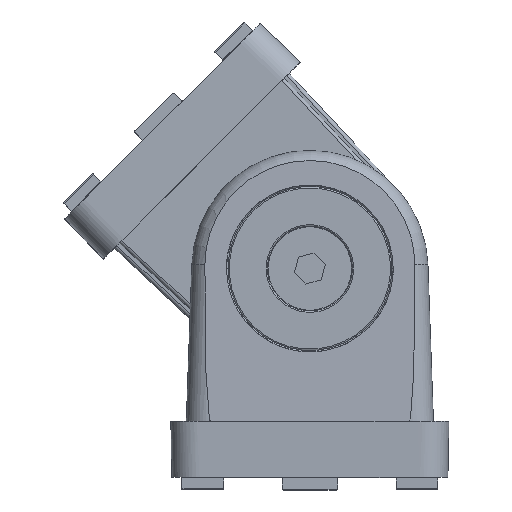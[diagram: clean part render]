
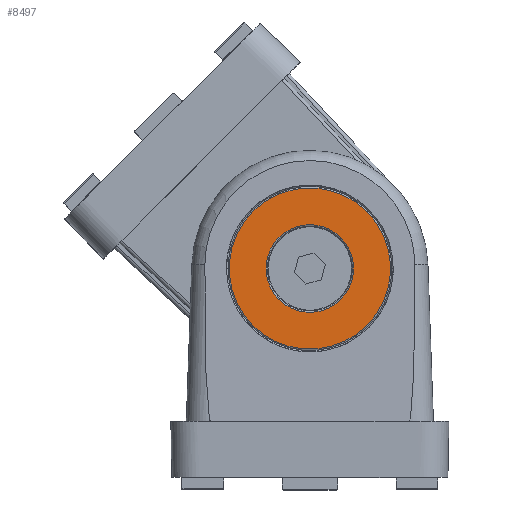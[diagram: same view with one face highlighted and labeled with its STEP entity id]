
A CAD part, top view. The second image highlights one B-rep face of the part: STEP entity #8497.
In plain terms, the highlighted planar face has unit normal (0, 0, 1).
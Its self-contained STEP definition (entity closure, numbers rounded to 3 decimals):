
#493 = CARTESIAN_POINT ( 'NONE',  ( 0., 0., 0. ) ) ;
#536 = DIRECTION ( 'NONE',  ( 0., 0., -1. ) ) ;
#1231 = DIRECTION ( 'NONE',  ( -1., 0., 0. ) ) ;
#1533 = DIRECTION ( 'NONE',  ( 0., 0., -1. ) ) ;
#1809 = CARTESIAN_POINT ( 'NONE',  ( 11.6, 0., 0. ) ) ;
#2348 = AXIS2_PLACEMENT_3D ( 'NONE', #3783, #1533, #10096 ) ;
#2683 = DIRECTION ( 'NONE',  ( 0., 0., 1. ) ) ;
#3105 = CARTESIAN_POINT ( 'NONE',  ( -6.3, 0., 0. ) ) ;
#3168 = AXIS2_PLACEMENT_3D ( 'NONE', #9812, #8633, #1231 ) ;
#3669 = DIRECTION ( 'NONE',  ( -1., 0., 0. ) ) ;
#3783 = CARTESIAN_POINT ( 'NONE',  ( 0., 0., 0. ) ) ;
#4144 = CIRCLE ( 'NONE', #2348, 11.6 ) ;
#4212 = DIRECTION ( 'NONE',  ( -1., 0., 0. ) ) ;
#4569 = EDGE_LOOP ( 'NONE', ( #11336, #12734 ) ) ;
#4935 = VERTEX_POINT ( 'NONE', #3105 ) ;
#5375 = DIRECTION ( 'NONE',  ( 0., 0., -1. ) ) ;
#5433 = VERTEX_POINT ( 'NONE', #1809 ) ;
#5597 = FACE_OUTER_BOUND ( 'NONE', #9350, .T. ) ;
#5610 = CIRCLE ( 'NONE', #8484, 11.6 ) ;
#5625 = AXIS2_PLACEMENT_3D ( 'NONE', #11310, #2683, #9236 ) ;
#5864 = CIRCLE ( 'NONE', #13299, 6.3 ) ;
#5891 = PLANE ( 'NONE',  #5625 ) ;
#5992 = EDGE_CURVE ( 'NONE', #4935, #12209, #5864, .T. ) ;
#6436 = CARTESIAN_POINT ( 'NONE',  ( 0., 0., 0. ) ) ;
#6697 = CIRCLE ( 'NONE', #3168, 6.3 ) ;
#7301 = EDGE_CURVE ( 'NONE', #12209, #4935, #6697, .T. ) ;
#7823 = VERTEX_POINT ( 'NONE', #9755 ) ;
#7946 = EDGE_CURVE ( 'NONE', #7823, #5433, #4144, .T. ) ;
#8484 = AXIS2_PLACEMENT_3D ( 'NONE', #6436, #5375, #4212 ) ;
#8497 = ADVANCED_FACE ( 'NONE', ( #10992, #5597 ), #5891, .T. ) ;
#8595 = CARTESIAN_POINT ( 'NONE',  ( 6.3, 0., 0. ) ) ;
#8633 = DIRECTION ( 'NONE',  ( 0., 0., -1. ) ) ;
#8703 = ORIENTED_EDGE ( 'NONE', *, *, #9917, .F. ) ;
#9236 = DIRECTION ( 'NONE',  ( 1., 0., 0. ) ) ;
#9350 = EDGE_LOOP ( 'NONE', ( #10865, #8703 ) ) ;
#9755 = CARTESIAN_POINT ( 'NONE',  ( -11.6, 0., 0. ) ) ;
#9812 = CARTESIAN_POINT ( 'NONE',  ( 0., 0., 0. ) ) ;
#9917 = EDGE_CURVE ( 'NONE', #5433, #7823, #5610, .T. ) ;
#10096 = DIRECTION ( 'NONE',  ( -1., 0., 0. ) ) ;
#10865 = ORIENTED_EDGE ( 'NONE', *, *, #7946, .F. ) ;
#10992 = FACE_BOUND ( 'NONE', #4569, .T. ) ;
#11310 = CARTESIAN_POINT ( 'NONE',  ( 0., 11.6, 0. ) ) ;
#11336 = ORIENTED_EDGE ( 'NONE', *, *, #5992, .T. ) ;
#12209 = VERTEX_POINT ( 'NONE', #8595 ) ;
#12734 = ORIENTED_EDGE ( 'NONE', *, *, #7301, .T. ) ;
#13299 = AXIS2_PLACEMENT_3D ( 'NONE', #493, #536, #3669 ) ;
